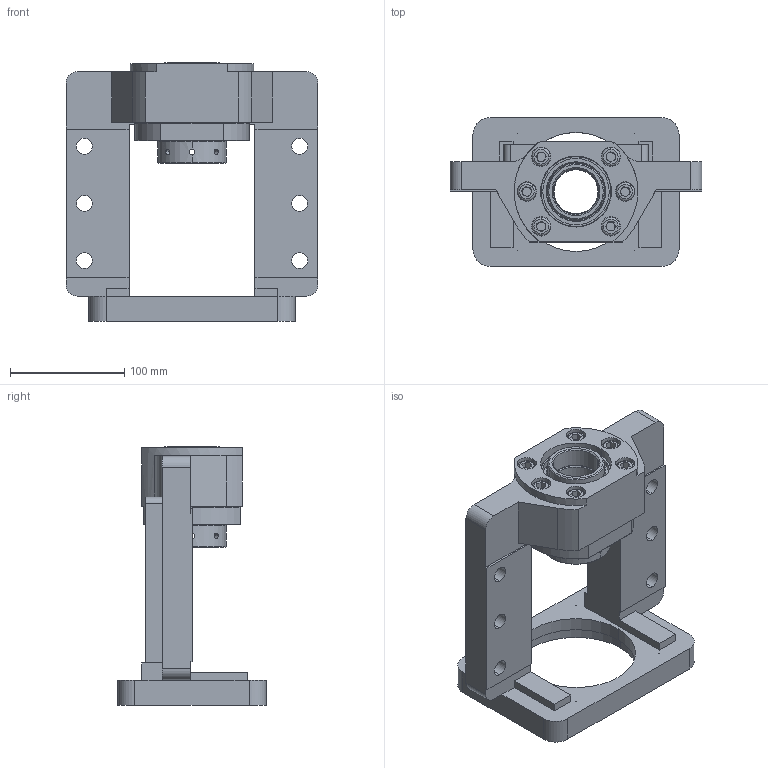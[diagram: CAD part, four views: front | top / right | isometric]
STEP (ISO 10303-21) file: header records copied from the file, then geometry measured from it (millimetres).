
FILE_DESCRIPTION (( 'STEP AP203' ), '1' );
FILE_NAME ('MBCS40L-G.STEP', '2024-10-21T07:02:23', ( '' ), ( '' ), 'SwSTEP 2.0', 'SolidWorks 2018', '' );
FILE_SCHEMA (( 'CONFIG_CONTROL_DESIGN' ));
Length unit declared in the file: millimetre
Products named in the file (1): MBCS40L-G
Bounding box: 220 x 130 x 226 mm (x, y, z)
Surface area: 210835 mm2 (no closed solid volume)
Topology: 0 solids, 21 shells, 338 faces, 943 edges, 622 vertices
Faces by surface type: cylinder 125, plane 121, cone 62, torus 18, bspline 12
Entity records: 26347 total; most frequent: CARTESIAN_POINT 17670, DIRECTION 1841, ORIENTED_EDGE 1657, EDGE_CURVE 935, AXIS2_PLACEMENT_3D 707, VERTEX_POINT 622, VECTOR 427, LINE 427
